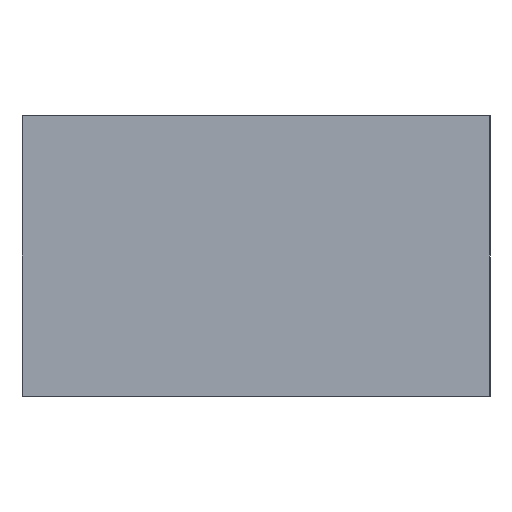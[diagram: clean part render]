
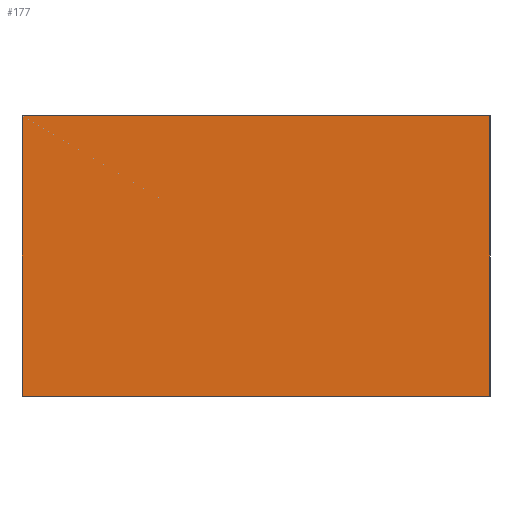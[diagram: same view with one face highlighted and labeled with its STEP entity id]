
A CAD part, left-side view. The second image highlights one B-rep face of the part: STEP entity #177.
In plain terms, the highlighted planar face has unit normal (-1, 0, 0).
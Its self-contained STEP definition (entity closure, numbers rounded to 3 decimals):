
#177=ADVANCED_FACE('',(#389),#391,.T.);
#389=FACE_BOUND('',#390,.T.);
#390=EDGE_LOOP('',(#546,#547,#548,#549));
#391=PLANE('',#392);
#392=AXIS2_PLACEMENT_3D('',#393,#394,#395);
#393=CARTESIAN_POINT('',(-0.8,-0.4,0.));
#394=DIRECTION('',(-1.,0.,0.));
#395=DIRECTION('',(0.,0.,1.));
#546=ORIENTED_EDGE('',*,*,#630,.T.);
#547=ORIENTED_EDGE('',*,*,#646,.T.);
#548=ORIENTED_EDGE('',*,*,#644,.F.);
#549=ORIENTED_EDGE('',*,*,#647,.F.);
#630=EDGE_CURVE('',#702,#703,#704,.T.);
#644=EDGE_CURVE('',#726,#718,#728,.T.);
#646=EDGE_CURVE('',#703,#718,#730,.T.);
#647=EDGE_CURVE('',#702,#726,#731,.T.);
#702=VERTEX_POINT('',#834);
#703=VERTEX_POINT('',#835);
#704=LINE('',#836,#837);
#718=VERTEX_POINT('',#868);
#726=VERTEX_POINT('',#884);
#728=LINE('',#888,#889);
#730=LINE('',#894,#895);
#731=LINE('',#897,#898);
#834=CARTESIAN_POINT('',(-0.8,-0.4,0.));
#835=CARTESIAN_POINT('',(-0.8,-0.4,0.48));
#836=CARTESIAN_POINT('',(-0.8,-0.4,0.));
#837=VECTOR('',#838,1.);
#838=DIRECTION('',(0.,0.,1.));
#868=CARTESIAN_POINT('',(-0.8,0.4,0.48));
#884=CARTESIAN_POINT('',(-0.8,0.4,0.));
#888=CARTESIAN_POINT('',(-0.8,0.4,0.));
#889=VECTOR('',#890,1.);
#890=DIRECTION('',(0.,0.,1.));
#894=CARTESIAN_POINT('',(-0.8,-0.4,0.48));
#895=VECTOR('',#896,1.);
#896=DIRECTION('',(0.,1.,0.));
#897=CARTESIAN_POINT('',(-0.8,-0.4,0.));
#898=VECTOR('',#899,1.);
#899=DIRECTION('',(0.,1.,0.));
